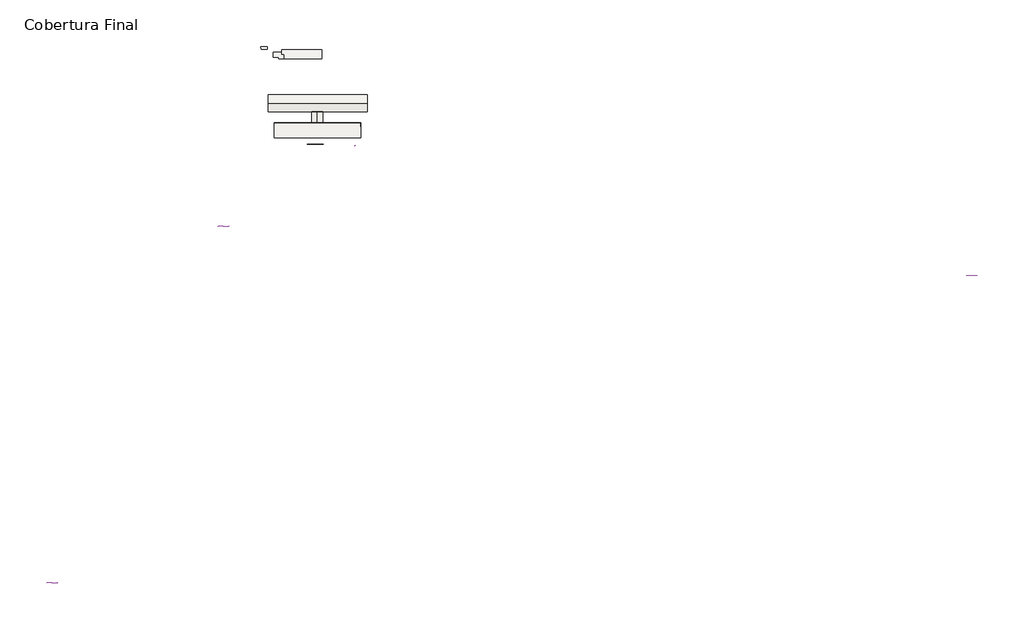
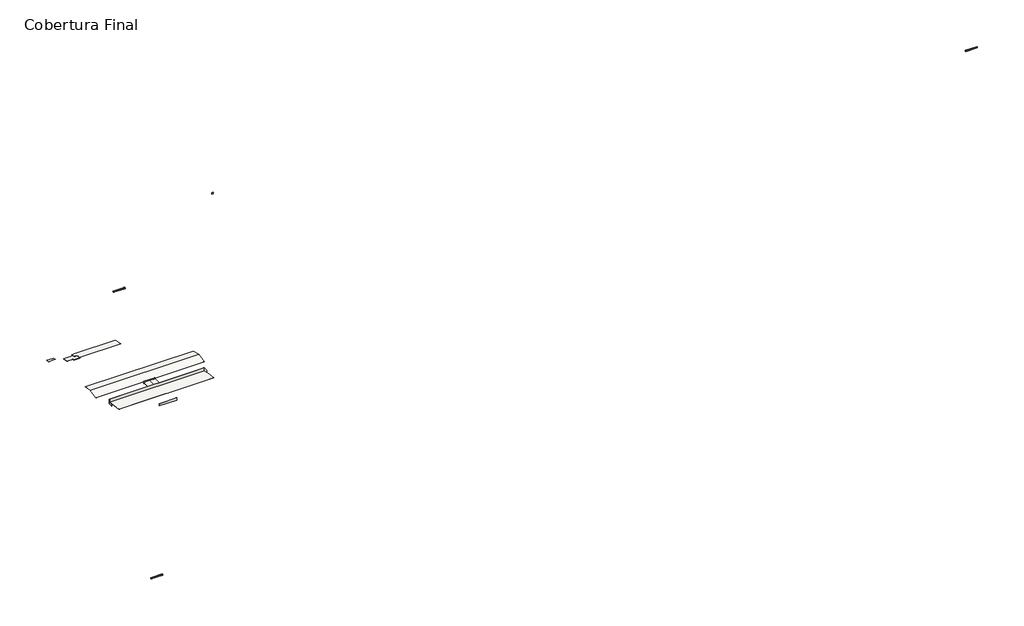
# One storey, incomplete: 6 roofs, 6 walls, 4 proxies.
"""IFC4 building model written with IfcOpenShell, lengths in millimetres."""

from ifc_helpers import new_model, si_unit, frame, origin, place, context, project, spatial, polyline, outline, extrude, faceted_brep, transform, mapped, element, save
from components import generic_models_f777319b, generic_models_71a26b62

model = new_model("IFC4")

# Units and contexts
model_context = context("Model", 3, world=origin())
ifc_project = project(units=[si_unit("LENGTHUNIT", "METRE", prefix="MILLI")], contexts=[model_context])

# Site, building, storey
site = spatial("IfcSite", under=ifc_project)
building = spatial("IfcBuilding", under=site)
storey = spatial("IfcBuildingStorey", under=building, Name="Cobertura Final", Elevation=5700.0)

# Proxies
placement = place(None, origin())
generic_models_shape = generic_models_f777319b(model_context)
element("IfcBuildingElementProxy", 1, Name="Modelos genéricos 1 : Modelos genéricos 1", ObjectType="Modelos genéricos 1 : Modelos genéricos 1", at=placement, inside=storey, context=model_context, shape_type="MappedRepresentation", body=[
    mapped(generic_models_shape, transform((-165905.1538344, -248339.2909006, 0.0), x_axis=(1.0, 0.0, 0.0), y_axis=(0.0, 1.0, 0.0), z_axis=(0.0, 0.0, 1.0))),
])
element("IfcBuildingElementProxy", 2, Name="Modelos genéricos 2 : Modelos genéricos 1", ObjectType="Modelos genéricos 2 : Modelos genéricos 1", at=placement, inside=storey, context=model_context, shape_type="MappedRepresentation", body=[
    mapped(generic_models_shape, transform((-70363.5382149, -49676.1522101, 0.0), x_axis=(1.0, 0.0, 0.0), y_axis=(0.0, 1.0, 0.0), z_axis=(0.0, 0.0, 1.0))),
])
generic_models_2_shape = generic_models_71a26b62(model_context)
element("IfcBuildingElementProxy", 3, Name="Modelos genéricos 2 : Modelos genéricos 2", ObjectType="Modelos genéricos 2 : Modelos genéricos 2", at=placement, inside=storey, context=model_context, shape_type="MappedRepresentation", body=[
    mapped(generic_models_2_shape, transform((0.0, 0.0, 0.0), x_axis=(1.0, 0.0, 0.0), y_axis=(0.0, 1.0, 0.0), z_axis=(0.0, 0.0, 1.0))),
])
element("IfcBuildingElementProxy", 4, Name="Modelos genéricos 3 : Modelos genéricos 1", ObjectType="Modelos genéricos 3 : Modelos genéricos 1", at=placement, inside=storey, context=model_context, shape_type="MappedRepresentation", body=[
    mapped(generic_models_shape, transform((346736.8902775, -77152.9328746, 0.0), x_axis=(1.0, 0.0, 0.0), y_axis=(0.0, 1.0, 0.0), z_axis=(0.0, 0.0, 1.0))),
])

# Roofs
element("IfcRoof", 5, ObjectType="Telha Metálica", at=placement, inside=storey, context=model_context, shape_type="SweptSolid", body=[
    extrude(outline(polyline([(19045.7727831, 3619.1742901), (23811.6315073, 4810.6389712), (28577.4902315, 3619.1742901), (28577.4902315, 3567.6354698), (23811.6315073, 4759.1001508), (19045.7727831, 3567.6354698), (19045.7727831, 3619.1742901)])), frame((-58250.0, 0.0, 0.0), z_axis=(1.0, 0.0, 0.0), x_axis=(0.0, 1.0, 0.0)), (0.0, 0.0, 1.0), 54950.0),
])
element("IfcRoof", 6, ObjectType="Telha Metálica", at=placement, inside=storey, context=model_context, shape_type="SweptSolid", body=[
    extrude(outline(polyline([(4520.0000015, 5058.0593708), (12610.0, 3844.559371), (12610.0, 3794.0), (4520.0000015, 5007.4999998), (4520.0000015, 5058.0593708)])), frame((-55003.4091269, 0.0, 0.0), z_axis=(1.0, 0.0, 0.0), x_axis=(0.0, 1.0, 0.0)), (0.0, 0.0, 1.0), 48233.4091269),
])
element("IfcRoof", 7, ObjectType="Genérico", at=placement, inside=storey, context=model_context, shape_type="Brep", body=[
    faceted_brep([(-28600.0, 48589.0879102, 4252.5), (-49366.66665, 48589.0879102, 4252.5), (-49366.66665, 51069.0879102, 3632.5), (-50736.66665, 51069.0879102, 3632.5), (-50736.66665, 53419.0879102, 3045.0), (-49366.66665, 53419.0879102, 3045.0), (-28600.0, 53419.0879102, 3045.0), (-49366.66665, 48589.0879102, 4304.0388203), (-28600.0, 48589.0879102, 4304.0388203), (-28600.0, 53419.0879102, 3096.5388203), (-49366.66665, 53419.0879102, 3096.5388203), (-50736.66665, 53419.0879102, 3096.5388203), (-50736.66665, 51069.0879102, 3684.0388203), (-49366.66665, 51069.0879102, 3684.0388203)], [[[0, 1, 2, 3, 4, 5, 6]], [[7, 8, 9, 10, 11, 12, 13]], [[5, 10, 9, 6]], [[4, 11, 10, 5]], [[9, 8, 0, 6]], [[8, 7, 1, 0]], [[7, 13, 2, 1]], [[13, 12, 3, 2]], [[12, 11, 4, 3]]]),
])
element("IfcRoof", 8, ObjectType="Genérico", at=placement, inside=storey, context=model_context, shape_type="Brep", body=[
    faceted_brep([(-52356.66665, 49320.0, 3724.0), (-55466.66665, 49320.0, 3724.0), (-55466.66665, 52080.0, 3310.0), (-50856.66665, 52080.0, 3310.0), (-50856.66665, 51039.0879102, 3466.1368135), (-49396.66665, 51039.0879102, 3466.1368135), (-49396.66665, 48589.0879102, 3833.6368135), (-52356.66665, 48589.0879102, 3833.6368135), (-55466.66665, 49320.0, 3774.559371), (-52356.66665, 49320.0, 3774.559371), (-52356.66665, 48589.0879102, 3884.1961845), (-49396.66665, 48589.0879102, 3884.1961845), (-49396.66665, 51039.0879102, 3516.6961845), (-50856.66665, 51039.0879102, 3516.6961845), (-50856.66665, 52080.0, 3360.559371), (-55466.66665, 52080.0, 3360.559371)], [[[0, 1, 2, 3, 4, 5, 6, 7]], [[8, 9, 10, 11, 12, 13, 14, 15]], [[2, 15, 14, 3]], [[9, 8, 1, 0]], [[14, 13, 4, 3]], [[8, 15, 2, 1]], [[13, 12, 5, 4]], [[12, 11, 6, 5]], [[11, 10, 7, 6]], [[10, 9, 0, 7]]]),
])
element("IfcRoof", 9, ObjectType="Genérico", at=placement, inside=storey, context=model_context, shape_type="Brep", body=[
    faceted_brep([(-62353.5191781, 53810.8785028, 3228.7171252), (-62375.033331, 55337.979339, 3000.0), (-58794.1866069, 55184.5846313, 3000.0), (-58794.1866069, 53810.8785028, 3205.867117), (-62375.033331, 55337.979339, 3050.559371), (-62353.5191781, 53810.8785028, 3279.2764963), (-58794.1866069, 53810.8785028, 3256.4264881), (-58794.1866069, 55184.5846313, 3050.559371)], [[[0, 1, 2, 3]], [[4, 5, 6, 7]], [[1, 4, 7, 2]], [[5, 4, 1, 0]], [[7, 6, 3, 2]], [[6, 5, 0, 3]]]),
])
element("IfcRoof", 10, ObjectType="Telha Metálica", at=placement, inside=storey, context=model_context, shape_type="SweptSolid", body=[
    extrude(outline(polyline([(3038.3443155, -27999.0), (3485.0, -30976.7045635), (3038.3443155, -33954.4091269), (2987.7849444, -33954.4091269), (3434.440629, -30976.7045635), (2987.7849444, -27999.0), (3038.3443155, -27999.0)])), frame((0.0, 13000.0, 0.0), z_axis=(0.0, 1.0, 0.0), x_axis=(0.0, 0.0, 1.0)), (0.0, 0.0, 1.0), 6017.7110243),
])

# Walls
element("IfcWall", 11, ObjectType="ACM Verde Folha_Marquise", at=placement, inside=storey, context=model_context, shape_type="Brep", body=[
    faceted_brep([(-36468.4091269, 898.5326612, 2530.0), (-27779.7378789, 898.5326612, 2530.0), (-27779.7378789, 898.5326612, 2900.0), (-27770.0, 898.5326612, 2900.0), (-27770.0, 898.5326612, 3790.9420848), (-36483.4091269, 898.5326612, 3790.9420848), (-36483.4091269, 898.5326612, 2550.8), (-36468.4091269, 898.5326612, 2550.8), (-36468.4091269, 918.5326612, 2530.0), (-36468.4091269, 918.5326612, 2550.8), (-36483.4091269, 918.5326612, 2550.8), (-36483.4091269, 918.5326612, 3790.9420848), (-27770.0, 918.5326612, 3790.9420848), (-27770.0, 918.5326612, 2900.0), (-27779.7378789, 918.5326612, 2900.0), (-27779.7378789, 918.5326612, 2530.0), (-27779.7378789, 907.5326612, 2900.0)], [[[0, 1, 2, 3, 4, 5, 6, 7]], [[8, 9, 10, 11, 12, 13, 14, 15]], [[1, 0, 8, 15]], [[5, 4, 12, 11]], [[6, 10, 9, 7]], [[0, 7, 9, 8]], [[13, 3, 2, 16, 14]], [[2, 1, 15, 14, 16]], [[6, 5, 11, 10]], [[4, 3, 13, 12]]]),
])
element("IfcWall", 12, ObjectType="ACM Verde Folha_Marquise", at=placement, inside=storey, context=model_context, shape_type="SweptSolid", body=[
    extrude(outline(polyline([(-27999.0, 19017.7110243), (-33954.4091269, 19017.7110243), (-33954.4091269, 19037.7110243), (-27999.0, 19037.7110243), (-27999.0, 19017.7110243)])), frame((0.0, 0.0, 2530.0), z_axis=(0.0, 0.0, 1.0), x_axis=(1.0, 0.0, 0.0)), (0.0, 0.0, 1.0), 1260.9420848),
])
element("IfcWall", 13, ObjectType="ACM Verde Folha_Marquise", at=placement, inside=storey, context=model_context, shape_type="Brep", body=[
    faceted_brep([(-33954.4091269, 12980.0, 2530.0), (-27999.0, 12980.0, 2530.0), (-27999.0, 12980.0, 2900.0), (-27999.0, 12980.0, 3790.9420848), (-33954.4091269, 12980.0, 3790.9420848), (-33954.4091269, 12980.0, 2900.0), (-33954.4091269, 13000.0, 2530.0), (-33954.4091269, 13000.0, 3790.9420848), (-27999.0, 13000.0, 3790.9420848), (-27999.0, 13000.0, 2530.0)], [[[0, 1, 2, 3, 4, 5]], [[6, 7, 8, 9]], [[1, 0, 6, 9]], [[4, 3, 8, 7]], [[0, 5, 4, 7, 6]], [[3, 2, 1, 9, 8]]]),
])
element("IfcWall", 14, ObjectType="Pardes Internas_Pintura Acrílica Branco Neve 2", at=placement, inside=storey, context=model_context, shape_type="SweptSolid", body=[
    extrude(outline(polyline([(10652.3195082, 2900.0), (10652.3195082, 4087.6520738), (12610.0, 3794.0), (12610.0, 5400.0), (12829.0, 5400.0), (12829.0, 2900.0), (10652.3195082, 2900.0)])), frame((-55003.4091269, 0.0, 0.0), z_axis=(1.0, 0.0, 0.0), x_axis=(0.0, 1.0, 0.0)), (0.0, 0.0, 1.0), 31.0),
])
element("IfcWall", 15, ObjectType="Pardes Internas_Pintura Acrílica Branco Neve 2", at=placement, inside=storey, context=model_context, shape_type="Brep", body=[
    faceted_brep([(-55003.4091269, 12829.0, 2900.0), (-54972.4091269, 12829.0, 2900.0), (-6801.0, 12829.0, 2900.0), (-6770.0, 12829.0, 2900.0), (-6770.0, 12829.0, 5400.0), (-6801.0, 12829.0, 5400.0), (-54972.4091269, 12829.0, 5400.0), (-55003.4091269, 12829.0, 5400.0), (-55003.4091269, 12860.0, 2900.0), (-55003.4091269, 12860.0, 5400.0), (-6770.0, 12860.0, 5400.0), (-6770.0, 12860.0, 2900.0)], [[[0, 1, 2, 3, 4, 5, 6, 7]], [[8, 9, 10, 11]], [[4, 3, 11, 10]], [[0, 7, 9, 8]], [[3, 2, 1, 0, 8, 11]], [[7, 6, 5, 4, 10, 9]]]),
])
element("IfcWall", 16, ObjectType="Pardes Internas_Pintura Acrílica Branco Neve 2", at=placement, inside=storey, context=model_context, shape_type="SweptSolid", body=[
    extrude(outline(polyline([(-6801.0, 10691.0), (-6801.0, 12829.0), (-6770.0, 12829.0), (-6770.0, 10691.0), (-6801.0, 10691.0)])), frame((0.0, 0.0, 2900.0), z_axis=(0.0, 0.0, 1.0), x_axis=(1.0, 0.0, 0.0)), (0.0, 0.0, 1.0), 2500.0),
])

save(model, "model.ifc")
